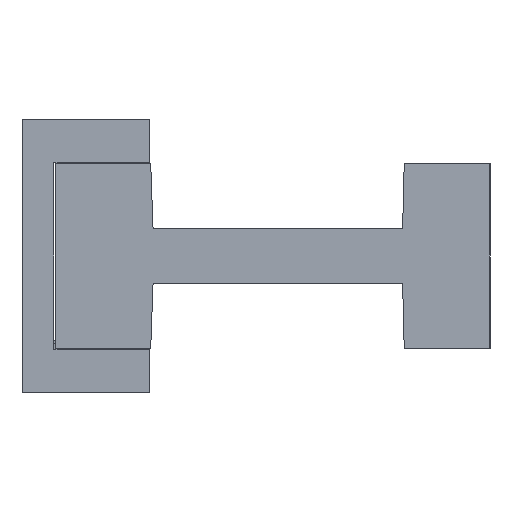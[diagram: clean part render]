
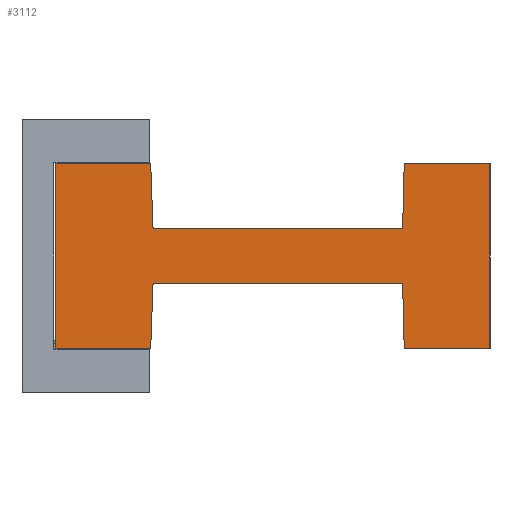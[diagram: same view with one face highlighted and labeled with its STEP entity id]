
A CAD part, left-side view. The second image highlights one B-rep face of the part: STEP entity #3112.
In plain terms, the highlighted planar face has unit normal (-1, 0, 0).
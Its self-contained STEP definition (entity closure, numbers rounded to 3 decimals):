
#3 = CARTESIAN_POINT ( 'NONE',  ( -121.487, -16.8, 247.61 ) ) ;
#11 = ORIENTED_EDGE ( 'NONE', *, *, #1820, .T. ) ;
#40 = DIRECTION ( 'NONE',  ( 0., 0.036, 0.999 ) ) ;
#141 = VECTOR ( 'NONE', #2113, 1000. ) ;
#183 = CARTESIAN_POINT ( 'NONE',  ( -121.487, -4.3, 232.26 ) ) ;
#217 = VECTOR ( 'NONE', #5157, 1000. ) ;
#351 = CARTESIAN_POINT ( 'NONE',  ( -121.487, -60., 255.96 ) ) ;
#355 = DIRECTION ( 'NONE',  ( 0., 0.036, -0.999 ) ) ;
#364 = VERTEX_POINT ( 'NONE', #643 ) ;
#464 = CARTESIAN_POINT ( 'NONE',  ( -121.487, -49., 255.96 ) ) ;
#563 = VERTEX_POINT ( 'NONE', #183 ) ;
#643 = CARTESIAN_POINT ( 'NONE',  ( -121.487, -4.3, 255.96 ) ) ;
#667 = EDGE_CURVE ( 'NONE', #2129, #1741, #4042, .T. ) ;
#699 = VECTOR ( 'NONE', #4942, 1000. ) ;
#758 = VERTEX_POINT ( 'NONE', #3203 ) ;
#816 = EDGE_CURVE ( 'NONE', #758, #1321, #5378, .T. ) ;
#1015 = CARTESIAN_POINT ( 'NONE',  ( -121.487, -4.3, 255.96 ) ) ;
#1084 = EDGE_CURVE ( 'NONE', #1321, #3968, #3771, .T. ) ;
#1090 = ORIENTED_EDGE ( 'NONE', *, *, #667, .F. ) ;
#1097 = LINE ( 'NONE', #2517, #141 ) ;
#1106 = LINE ( 'NONE', #5308, #4561 ) ;
#1110 = EDGE_CURVE ( 'NONE', #4023, #3640, #4616, .T. ) ;
#1131 = CARTESIAN_POINT ( 'NONE',  ( -121.487, -16.8, 240.61 ) ) ;
#1240 = CARTESIAN_POINT ( 'NONE',  ( -121.487, -16.8, 240.61 ) ) ;
#1258 = EDGE_CURVE ( 'NONE', #3640, #2129, #1807, .T. ) ;
#1289 = DIRECTION ( 'NONE',  ( 0., 1., 0. ) ) ;
#1321 = VERTEX_POINT ( 'NONE', #351 ) ;
#1369 = VECTOR ( 'NONE', #355, 1000. ) ;
#1478 = VECTOR ( 'NONE', #5987, 1000. ) ;
#1514 = CARTESIAN_POINT ( 'NONE',  ( -121.487, -60., 255.96 ) ) ;
#1540 = DIRECTION ( 'NONE',  ( 0., 0.024, -1. ) ) ;
#1647 = ORIENTED_EDGE ( 'NONE', *, *, #2037, .T. ) ;
#1726 = CARTESIAN_POINT ( 'NONE',  ( -121.487, -60., 232.26 ) ) ;
#1741 = VERTEX_POINT ( 'NONE', #4972 ) ;
#1763 = LINE ( 'NONE', #1726, #1960 ) ;
#1807 = LINE ( 'NONE', #4100, #1478 ) ;
#1820 = EDGE_CURVE ( 'NONE', #364, #563, #5934, .T. ) ;
#1824 = EDGE_LOOP ( 'NONE', ( #11, #3832, #1090, #2469, #2057, #2527, #4948, #2231, #2853, #1647, #3985, #1915 ) ) ;
#1915 = ORIENTED_EDGE ( 'NONE', *, *, #2510, .T. ) ;
#1960 = VECTOR ( 'NONE', #1289, 1000. ) ;
#2037 = EDGE_CURVE ( 'NONE', #2427, #2305, #1097, .T. ) ;
#2053 = CARTESIAN_POINT ( 'NONE',  ( -121.487, -60., 244.11 ) ) ;
#2057 = ORIENTED_EDGE ( 'NONE', *, *, #1110, .F. ) ;
#2113 = DIRECTION ( 'NONE',  ( 0., 1., 0. ) ) ;
#2129 = VERTEX_POINT ( 'NONE', #1131 ) ;
#2195 = VERTEX_POINT ( 'NONE', #3261 ) ;
#2222 = CARTESIAN_POINT ( 'NONE',  ( -121.487, -4.3, 255.96 ) ) ;
#2231 = ORIENTED_EDGE ( 'NONE', *, *, #1084, .T. ) ;
#2305 = VERTEX_POINT ( 'NONE', #4016 ) ;
#2321 = CARTESIAN_POINT ( 'NONE',  ( -121.487, -48.8, 240.61 ) ) ;
#2427 = VERTEX_POINT ( 'NONE', #6054 ) ;
#2469 = ORIENTED_EDGE ( 'NONE', *, *, #1258, .F. ) ;
#2490 = LINE ( 'NONE', #4898, #3785 ) ;
#2510 = EDGE_CURVE ( 'NONE', #2195, #364, #5662, .T. ) ;
#2517 = CARTESIAN_POINT ( 'NONE',  ( -121.487, -16.8, 247.61 ) ) ;
#2527 = ORIENTED_EDGE ( 'NONE', *, *, #4532, .F. ) ;
#2853 = ORIENTED_EDGE ( 'NONE', *, *, #5406, .T. ) ;
#3112 = ADVANCED_FACE ( 'NONE', ( #4431 ), #3520, .T. ) ;
#3203 = CARTESIAN_POINT ( 'NONE',  ( -121.487, -60., 232.26 ) ) ;
#3227 = VECTOR ( 'NONE', #5436, 1000. ) ;
#3261 = CARTESIAN_POINT ( 'NONE',  ( -121.487, -16.5, 255.96 ) ) ;
#3440 = EDGE_CURVE ( 'NONE', #1741, #563, #2490, .T. ) ;
#3520 = PLANE ( 'NONE',  #4716 ) ;
#3640 = VERTEX_POINT ( 'NONE', #2321 ) ;
#3771 = LINE ( 'NONE', #1514, #4604 ) ;
#3785 = VECTOR ( 'NONE', #4386, 1000. ) ;
#3832 = ORIENTED_EDGE ( 'NONE', *, *, #3440, .F. ) ;
#3875 = EDGE_CURVE ( 'NONE', #2305, #2195, #4615, .T. ) ;
#3900 = VECTOR ( 'NONE', #40, 1000. ) ;
#3968 = VERTEX_POINT ( 'NONE', #464 ) ;
#3985 = ORIENTED_EDGE ( 'NONE', *, *, #3875, .T. ) ;
#4016 = CARTESIAN_POINT ( 'NONE',  ( -121.487, -16.8, 247.61 ) ) ;
#4023 = VERTEX_POINT ( 'NONE', #4363 ) ;
#4042 = LINE ( 'NONE', #1240, #1369 ) ;
#4100 = CARTESIAN_POINT ( 'NONE',  ( -121.487, -16.8, 240.61 ) ) ;
#4173 = CARTESIAN_POINT ( 'NONE',  ( -121.487, -48.8, 240.61 ) ) ;
#4363 = CARTESIAN_POINT ( 'NONE',  ( -121.487, -49., 232.26 ) ) ;
#4386 = DIRECTION ( 'NONE',  ( 0., 1., 0. ) ) ;
#4431 = FACE_OUTER_BOUND ( 'NONE', #1824, .T. ) ;
#4482 = DIRECTION ( 'NONE',  ( -1., 0., 0. ) ) ;
#4520 = DIRECTION ( 'NONE',  ( 0., 0., 1. ) ) ;
#4532 = EDGE_CURVE ( 'NONE', #758, #4023, #1763, .T. ) ;
#4561 = VECTOR ( 'NONE', #1540, 1000. ) ;
#4604 = VECTOR ( 'NONE', #5098, 1000. ) ;
#4615 = LINE ( 'NONE', #3, #3900 ) ;
#4616 = LINE ( 'NONE', #4173, #217 ) ;
#4716 = AXIS2_PLACEMENT_3D ( 'NONE', #4965, #4482, #4520 ) ;
#4816 = VECTOR ( 'NONE', #5243, 1000. ) ;
#4898 = CARTESIAN_POINT ( 'NONE',  ( -121.487, -4.3, 232.26 ) ) ;
#4942 = DIRECTION ( 'NONE',  ( 0., 0., 1. ) ) ;
#4948 = ORIENTED_EDGE ( 'NONE', *, *, #816, .T. ) ;
#4965 = CARTESIAN_POINT ( 'NONE',  ( -121.487, -60., 244.11 ) ) ;
#4972 = CARTESIAN_POINT ( 'NONE',  ( -121.487, -16.5, 232.26 ) ) ;
#5098 = DIRECTION ( 'NONE',  ( 0., 1., 0. ) ) ;
#5157 = DIRECTION ( 'NONE',  ( 0., 0.024, 1. ) ) ;
#5243 = DIRECTION ( 'NONE',  ( 0., 1., 0. ) ) ;
#5308 = CARTESIAN_POINT ( 'NONE',  ( -121.487, -48.8, 247.61 ) ) ;
#5378 = LINE ( 'NONE', #2053, #699 ) ;
#5406 = EDGE_CURVE ( 'NONE', #3968, #2427, #1106, .T. ) ;
#5436 = DIRECTION ( 'NONE',  ( 0., 0., -1. ) ) ;
#5662 = LINE ( 'NONE', #1015, #4816 ) ;
#5934 = LINE ( 'NONE', #2222, #3227 ) ;
#5987 = DIRECTION ( 'NONE',  ( 0., 1., 0. ) ) ;
#6054 = CARTESIAN_POINT ( 'NONE',  ( -121.487, -48.8, 247.61 ) ) ;
